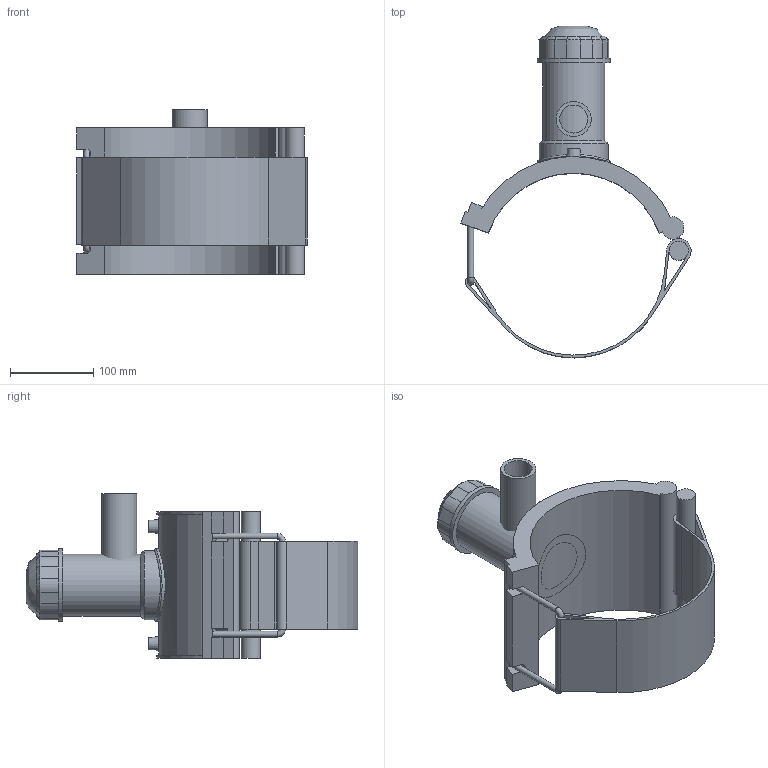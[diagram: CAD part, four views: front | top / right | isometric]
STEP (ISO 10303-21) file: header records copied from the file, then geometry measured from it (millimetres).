
FILE_DESCRIPTION(/* description */ ('PLASSON TAPPING SADDLE 8''''IPS x 1 1/4''''IPS'),/* implementation_level */ '2;1');
FILE_NAME(/* name */ 'C:\Dropbox\KIMPROJECTS-Inventor 2019\99-16-3568-Processing Inch\ASTM ElectroFusion 2021\5963BBP_5963BUP\5963BBP3080013.ipt.stp',/* time_stamp */ '2021-08-30T09:57:31+03:00',/* author */ ('KIM'),/* organization */ (''),/* preprocessor_version */ 'ST-DEVELOPER v17.2',/* originating_system */ 'Autodesk Inventor 2019',/* authorisation */ '');
FILE_SCHEMA (('AUTOMOTIVE_DESIGN { 1 0 10303 214 3 1 1 }'));
Length unit declared in the file: inch
Products named in the file (1): 5963BBP3080013
Bounding box: 276.84 x 399.02 x 197.99 mm (x, y, z)
Volume: 1837288.2 mm3; surface area: 370899 mm2
Topology: 3 solids, 3 shells, 124 faces, 315 edges, 205 vertices
Faces by surface type: plane 69, cylinder 40, cone 11, torus 2, bspline 2
Full cylindrical faces by diameter (mm): 4 x2, 6.998 x2, 10 x2, 23.048 x1, 33.68 x1, 42.1 x1, 61.236 x1, 74.358 x1, 83.106 x1, 87.48 x2
Entity records: 4260 total; most frequent: CARTESIAN_POINT 1120, DIRECTION 663, ORIENTED_EDGE 632, EDGE_CURVE 316, AXIS2_PLACEMENT_3D 241, VERTEX_POINT 205, LINE 181, VECTOR 181
